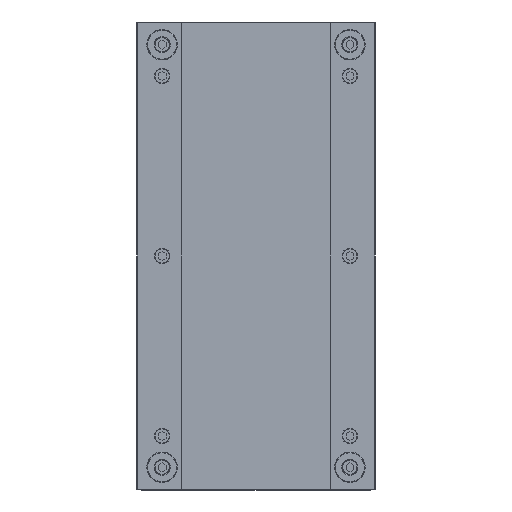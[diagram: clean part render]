
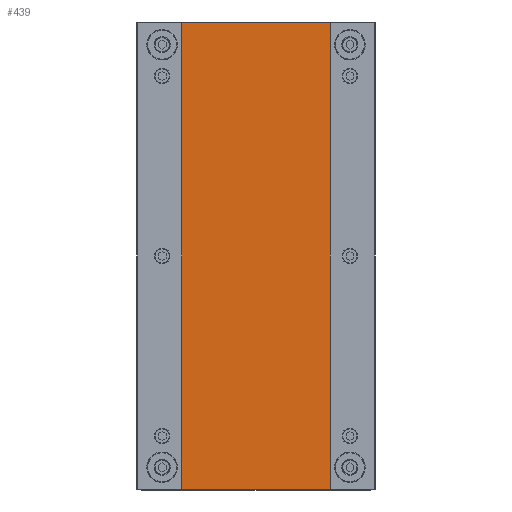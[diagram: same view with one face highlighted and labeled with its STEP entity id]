
A CAD part, front view. The second image highlights one B-rep face of the part: STEP entity #439.
In plain terms, the highlighted planar face has unit normal (0, -1, 0).
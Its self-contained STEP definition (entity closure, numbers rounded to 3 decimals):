
#439 = ADVANCED_FACE ( 'NONE', ( #894 ), #895, .F. ) ;
#894 = FACE_OUTER_BOUND ( 'NONE', #7205, .T. ) ;
#895 = PLANE ( 'NONE',  #896 ) ;
#896 = AXIS2_PLACEMENT_3D ( 'NONE', #897, #898, #899 ) ;
#897 = CARTESIAN_POINT ( 'NONE',  ( 99.5, -20., 298. ) ) ;
#898 = DIRECTION ( 'NONE',  ( 0., 1., 0. ) ) ;
#899 = DIRECTION ( 'NONE',  ( -1., 0., 0. ) ) ;
#1292 = CARTESIAN_POINT ( 'NONE',  ( 99.5, -20., 298. ) ) ;
#1570 = VERTEX_POINT ( 'NONE', #1292 ) ;
#1589 = LINE ( 'NONE', #1590, #1591 ) ;
#1590 = CARTESIAN_POINT ( 'NONE',  ( 99.5, -20., 298. ) ) ;
#1591 = VECTOR ( 'NONE', #1592, 1000. ) ;
#1592 = DIRECTION ( 'NONE',  ( 0., 0., -1. ) ) ;
#2360 = EDGE_CURVE ( 'NONE', #1570, #8572, #1589, .T. ) ;
#2423 = CARTESIAN_POINT ( 'NONE',  ( -99.5, -20., -298. ) ) ;
#2770 = LINE ( 'NONE', #2771, #2772 ) ;
#2771 = CARTESIAN_POINT ( 'NONE',  ( -99.5, -20., 298. ) ) ;
#2772 = VECTOR ( 'NONE', #2773, 1000. ) ;
#2773 = DIRECTION ( 'NONE',  ( 0., 0., -1. ) ) ;
#2909 = CARTESIAN_POINT ( 'NONE',  ( -99.5, -20., 298. ) ) ;
#4225 = VERTEX_POINT ( 'NONE', #2423 ) ;
#5020 = EDGE_CURVE ( 'NONE', #5287, #4225, #2770, .T. ) ;
#5080 = LINE ( 'NONE', #5081, #5086 ) ;
#5081 = CARTESIAN_POINT ( 'NONE',  ( 99.5, -20., -298. ) ) ;
#5086 = VECTOR ( 'NONE', #5087, 1000. ) ;
#5087 = DIRECTION ( 'NONE',  ( 1., 0., 0. ) ) ;
#5287 = VERTEX_POINT ( 'NONE', #2909 ) ;
#5393 = CARTESIAN_POINT ( 'NONE',  ( 99.5, -20., -298. ) ) ;
#6075 = LINE ( 'NONE', #6076, #6081 ) ;
#6076 = CARTESIAN_POINT ( 'NONE',  ( 99.5, -20., 298. ) ) ;
#6081 = VECTOR ( 'NONE', #6082, 1000. ) ;
#6082 = DIRECTION ( 'NONE',  ( 1., 0., 0. ) ) ;
#7205 = EDGE_LOOP ( 'NONE', ( #7739, #8722, #9291, #10257 ) ) ;
#7739 = ORIENTED_EDGE ( 'NONE', *, *, #8132, .T. ) ;
#8132 = EDGE_CURVE ( 'NONE', #4225, #8572, #5080, .T. ) ;
#8572 = VERTEX_POINT ( 'NONE', #5393 ) ;
#8722 = ORIENTED_EDGE ( 'NONE', *, *, #2360, .F. ) ;
#9291 = ORIENTED_EDGE ( 'NONE', *, *, #9663, .F. ) ;
#9663 = EDGE_CURVE ( 'NONE', #5287, #1570, #6075, .T. ) ;
#10257 = ORIENTED_EDGE ( 'NONE', *, *, #5020, .T. ) ;
